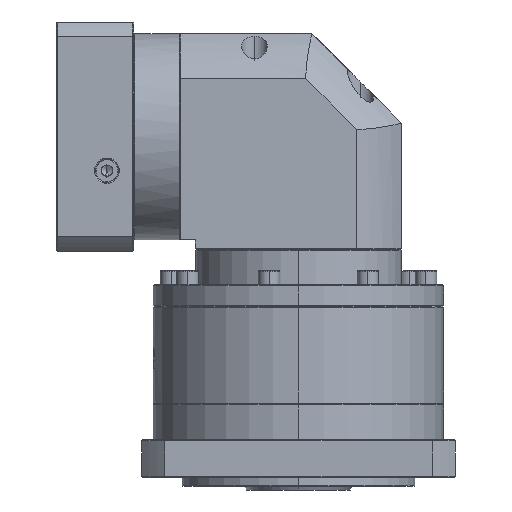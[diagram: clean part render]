
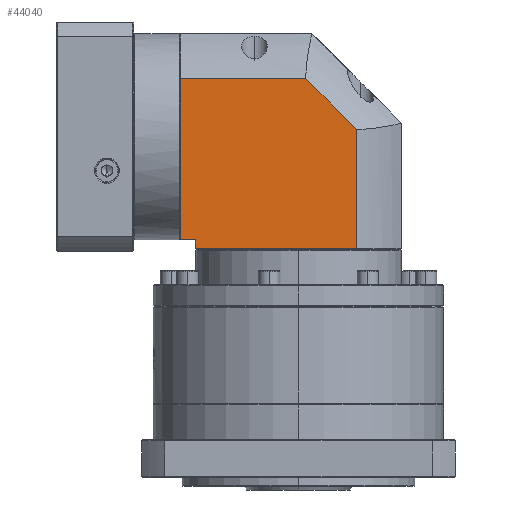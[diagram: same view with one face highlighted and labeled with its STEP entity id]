
A CAD part, left-side view. The second image highlights one B-rep face of the part: STEP entity #44040.
In plain terms, the highlighted planar face has unit normal (-1, 0, 0).
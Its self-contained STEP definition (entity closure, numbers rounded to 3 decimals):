
#4299 = CARTESIAN_POINT ( 'NONE',  ( -151.52, 154.354, 6.346 ) ) ;
#6526 = AXIS2_PLACEMENT_3D ( 'NONE', #27263, #101069, #122349 ) ;
#9419 = ORIENTED_EDGE ( 'NONE', *, *, #68652, .F. ) ;
#11957 = DIRECTION ( 'NONE',  ( 0., -0.707, -0.707 ) ) ;
#12532 = VERTEX_POINT ( 'NONE', #4299 ) ;
#17007 = LINE ( 'NONE', #113055, #114411 ) ;
#18145 = LINE ( 'NONE', #129213, #104083 ) ;
#20264 = VERTEX_POINT ( 'NONE', #32649 ) ;
#22207 = LINE ( 'NONE', #56656, #47015 ) ;
#23060 = EDGE_CURVE ( 'NONE', #29947, #119292, #17007, .T. ) ;
#23689 = DIRECTION ( 'NONE',  ( 0., 0., 1. ) ) ;
#25502 = CARTESIAN_POINT ( 'NONE',  ( -151.52, 154.354, -95.054 ) ) ;
#27263 = CARTESIAN_POINT ( 'NONE',  ( -151.52, 30.954, -95.054 ) ) ;
#29947 = VERTEX_POINT ( 'NONE', #128019 ) ;
#31013 = ORIENTED_EDGE ( 'NONE', *, *, #76566, .F. ) ;
#32626 = VECTOR ( 'NONE', #40330, 1000. ) ;
#32649 = CARTESIAN_POINT ( 'NONE',  ( -151.52, 84.393, 6.346 ) ) ;
#33100 = VERTEX_POINT ( 'NONE', #85715 ) ;
#38685 = DIRECTION ( 'NONE',  ( 0., 0., -1. ) ) ;
#40330 = DIRECTION ( 'NONE',  ( 0., -1., 0. ) ) ;
#44040 = ADVANCED_FACE ( 'NONE', ( #115157 ), #77659, .F. ) ;
#47015 = VECTOR ( 'NONE', #58043, 1000. ) ;
#52737 = VERTEX_POINT ( 'NONE', #73837 ) ;
#53571 = CARTESIAN_POINT ( 'NONE',  ( -151.52, 145.954, -88.554 ) ) ;
#53783 = VECTOR ( 'NONE', #60392, 1000. ) ;
#56656 = CARTESIAN_POINT ( 'NONE',  ( -151.52, 30.954, -88.554 ) ) ;
#58043 = DIRECTION ( 'NONE',  ( 0., 1., 0. ) ) ;
#60392 = DIRECTION ( 'NONE',  ( 0., -1., 0. ) ) ;
#62570 = VECTOR ( 'NONE', #38685, 1000. ) ;
#67535 = ORIENTED_EDGE ( 'NONE', *, *, #135695, .F. ) ;
#68652 = EDGE_CURVE ( 'NONE', #122322, #119292, #22207, .T. ) ;
#69213 = CARTESIAN_POINT ( 'NONE',  ( -151.52, 56.055, -95.054 ) ) ;
#73837 = CARTESIAN_POINT ( 'NONE',  ( -151.52, 56.055, -21.992 ) ) ;
#76566 = EDGE_CURVE ( 'NONE', #12532, #20264, #129537, .T. ) ;
#77659 = PLANE ( 'NONE',  #6526 ) ;
#81732 = DIRECTION ( 'NONE',  ( 0., 0., -1. ) ) ;
#85715 = CARTESIAN_POINT ( 'NONE',  ( -151.52, 154.354, -83.554 ) ) ;
#86579 = CARTESIAN_POINT ( 'NONE',  ( -151.52, 56.055, -88.554 ) ) ;
#86835 = ORIENTED_EDGE ( 'NONE', *, *, #23060, .T. ) ;
#90432 = ORIENTED_EDGE ( 'NONE', *, *, #94474, .F. ) ;
#94474 = EDGE_CURVE ( 'NONE', #20264, #52737, #18145, .T. ) ;
#101069 = DIRECTION ( 'NONE',  ( 1., 0., 0. ) ) ;
#103530 = CARTESIAN_POINT ( 'NONE',  ( -151.52, 145.954, -83.554 ) ) ;
#104083 = VECTOR ( 'NONE', #11957, 1000. ) ;
#113055 = CARTESIAN_POINT ( 'NONE',  ( -151.52, 145.954, 31.446 ) ) ;
#114281 = CARTESIAN_POINT ( 'NONE',  ( -151.52, 30.954, 6.346 ) ) ;
#114411 = VECTOR ( 'NONE', #81732, 1000. ) ;
#115157 = FACE_OUTER_BOUND ( 'NONE', #119206, .T. ) ;
#116898 = LINE ( 'NONE', #103530, #32626 ) ;
#117649 = EDGE_CURVE ( 'NONE', #33100, #29947, #116898, .T. ) ;
#119206 = EDGE_LOOP ( 'NONE', ( #67535, #90432, #31013, #127748, #121073, #86835, #9419 ) ) ;
#119292 = VERTEX_POINT ( 'NONE', #53571 ) ;
#120865 = EDGE_CURVE ( 'NONE', #33100, #12532, #127708, .T. ) ;
#121073 = ORIENTED_EDGE ( 'NONE', *, *, #117649, .T. ) ;
#122322 = VERTEX_POINT ( 'NONE', #86579 ) ;
#122349 = DIRECTION ( 'NONE',  ( 0., -1., 0. ) ) ;
#127708 = LINE ( 'NONE', #25502, #129410 ) ;
#127748 = ORIENTED_EDGE ( 'NONE', *, *, #120865, .F. ) ;
#128019 = CARTESIAN_POINT ( 'NONE',  ( -151.52, 145.954, -83.554 ) ) ;
#129213 = CARTESIAN_POINT ( 'NONE',  ( -151.52, 84.393, 6.346 ) ) ;
#129410 = VECTOR ( 'NONE', #23689, 1000. ) ;
#129537 = LINE ( 'NONE', #114281, #53783 ) ;
#131841 = LINE ( 'NONE', #69213, #62570 ) ;
#135695 = EDGE_CURVE ( 'NONE', #52737, #122322, #131841, .T. ) ;
